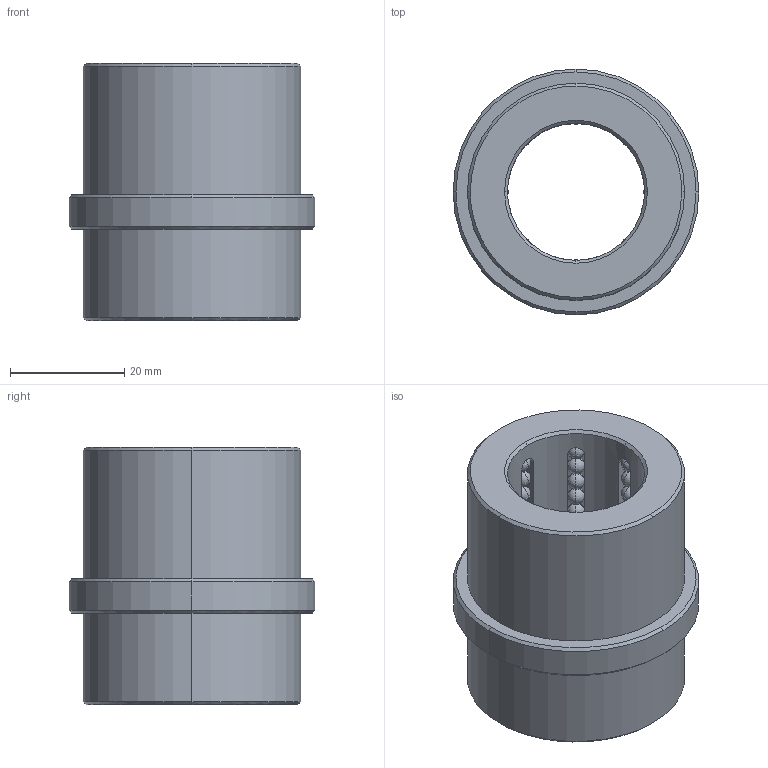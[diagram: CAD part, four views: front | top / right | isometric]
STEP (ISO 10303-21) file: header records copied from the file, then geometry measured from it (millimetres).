
FILE_DESCRIPTION(('CATIA V5 STEP Exchange'),'2;1');
FILE_NAME('C:\Users\Raffaele\Desktop\3D BOLEX\3D FILES CF BOLEX\5-BUSH REF 812\B8122445.stp','2019-06-20T11:57:23+00:00',('none'),('none'),'CATIA Version 5 Release 20 GA (IN-10)','CATIA V5 STEP AP203','none');
FILE_SCHEMA(('CONFIG_CONTROL_DESIGN'));
Length unit declared in the file: millimetre
Products named in the file (1): B8122445
Bounding box: 43 x 43 x 45 mm (x, y, z)
Volume: 31226.4 mm3; surface area: 15279.5 mm2
Topology: 97 solids, 97 shells, 460 faces, 1338 edges, 312 vertices
Faces by surface type: sphere 384, plane 28, cylinder 24, cone 24
Entity records: 8982 total; most frequent: CARTESIAN_POINT 1845, DIRECTION 1452, ORIENTED_EDGE 1140, AXIS2_PLACEMENT_3D 895, EDGE_CURVE 570, EDGE_LOOP 470, ADVANCED_FACE 460, FACE_OUTER_BOUND 460
